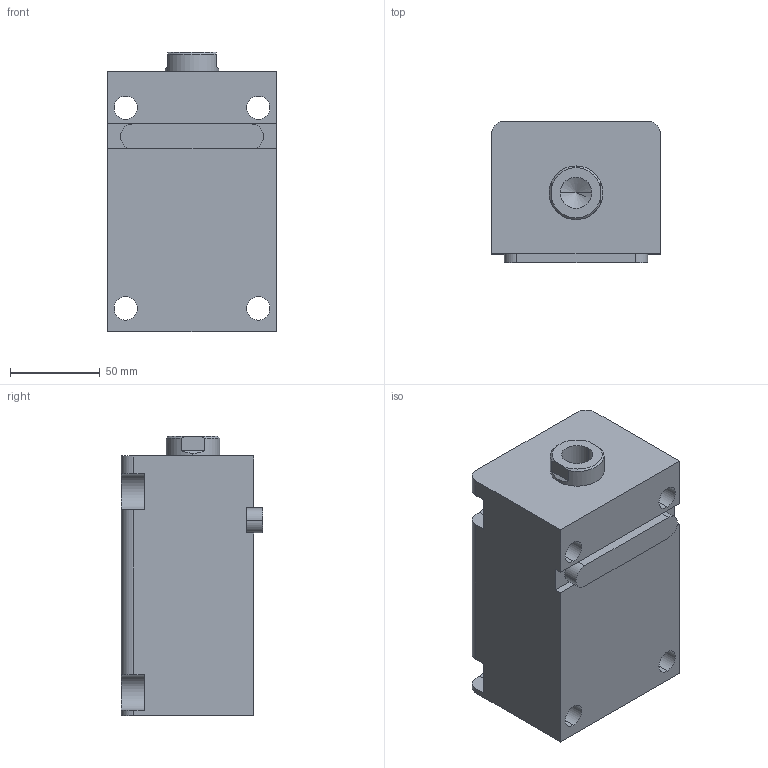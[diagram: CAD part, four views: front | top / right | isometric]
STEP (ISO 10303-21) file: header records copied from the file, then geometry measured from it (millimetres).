
FILE_DESCRIPTION (( 'STEP AP203' ), '1' );
FILE_NAME ('HTB-LA50-85N.STEP', '2019-10-09T07:13:07', ( '微软用户' ), ( '微软中国' ), 'SwSTEP 2.0', 'SolidWorks 2012', '' );
FILE_SCHEMA (( 'CONFIG_CONTROL_DESIGN' ));
Length unit declared in the file: millimetre
Products named in the file (4): HTB-LA50-85N; HTB-LA50-85掛极; HTB-LA50-瑩; HTB-LA50-85N活塞杆
Assembly tree (3 placements, depth 2):
  HTB-LA50-85N
    HTB-LA50-85掛极
    HTB-LA50-85N活塞杆
    HTB-LA50-瑩
Bounding box: 94 x 79 x 156 mm (x, y, z)
Volume: 851548.1 mm3; surface area: 119710.5 mm2
Topology: 3 solids, 3 shells, 86 faces, 213 edges, 139 vertices
Faces by surface type: plane 39, cylinder 35, cone 8, torus 4
Entity records: 3001 total; most frequent: DIRECTION 475, CARTESIAN_POINT 470, ORIENTED_EDGE 422, EDGE_CURVE 211, AXIS2_PLACEMENT_3D 180, VERTEX_POINT 139, VECTOR 115, LINE 115
